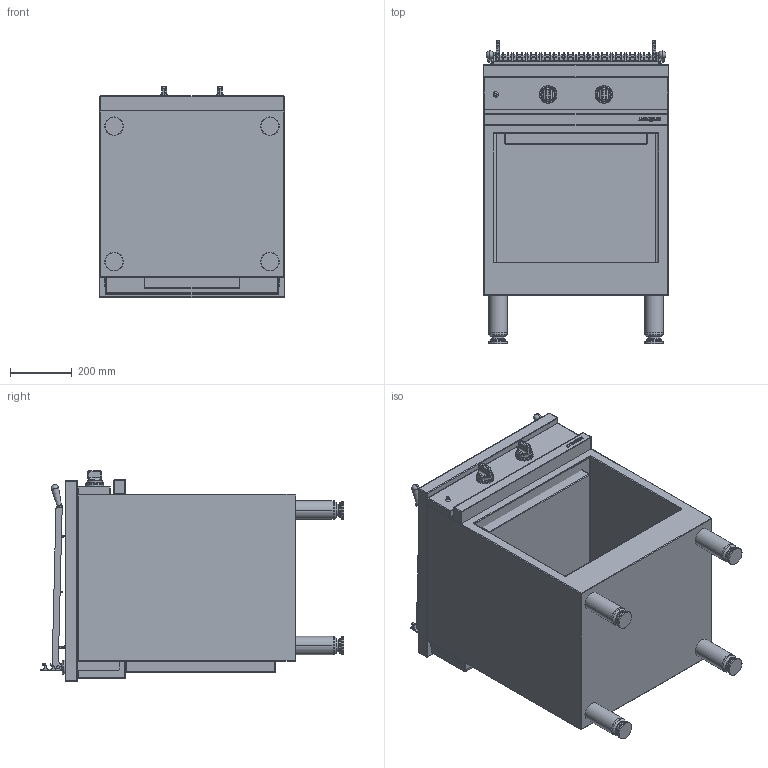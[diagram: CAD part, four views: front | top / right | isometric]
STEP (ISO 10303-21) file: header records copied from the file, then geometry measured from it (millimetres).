
FILE_DESCRIPTION((''),'2;1');
FILE_NAME('CMG620CKG_EXPORT_STEP_ASM','2017-11-22T',('r.avril'),(''),'PRO/ENGINEER BY PARAMETRIC TECHNOLOGY CORPORATION, 2014200','PRO/ENGINEER BY PARAMETRIC TECHNOLOGY CORPORATION, 2014200','');
FILE_SCHEMA(('AP203_CONFIGURATION_CONTROLLED_3D_DESIGN_OF_MECHANICAL_PARTS_AND_ASSEMBLIES_MIM_LF { 1 0 10303 403 2 1 2 }'));
Length unit declared in the file: millimetre
Products named in the file (15): MODULES_AMB_600_EXPORT_STEP; TABLE_620_CKG; 50883700; 59910842; 59910841; 50630400; 88883700_ASM; 50883600; 50883500; 59910431; 88883600_ASM; TABLE_620_CKG_ASM; ALLUMEUR_EXPORT_STEP; MANETTE_AMB_EXPORT_STEP; CMG620CKG_EXPORT_STEP_ASM
Assembly tree (34 placements, depth 4):
  CMG620CKG_EXPORT_STEP_ASM
    MODULES_AMB_600_EXPORT_STEP
    TABLE_620_CKG_ASM
      TABLE_620_CKG
      88883700_ASM
        50883700  x2
        59910842
        59910841
        50630400
      88883600_ASM  x2
        50883600
        50883500
        59910431
    ALLUMEUR_EXPORT_STEP
    MANETTE_AMB_EXPORT_STEP  x2
Bounding box: 600 x 980 x 682.5 mm (x, y, z)
Volume: 94577551.9 mm3; surface area: 6698387.3 mm2
Topology: 61 solids, 187 shells, 1854 faces, 5527 edges, 4400 vertices
Faces by surface type: plane 1063, cylinder 537, torus 96, sphere 80, bspline 42, cone 36
Entity records: 53627 total; most frequent: CARTESIAN_POINT 13985, DIRECTION 6201, ORIENTED_EDGE 5112, EDGE_CURVE 2893, AXIS2_PLACEMENT_3D 2164, VERTEX_POINT 2015, VECTOR 1828, LINE 1828
